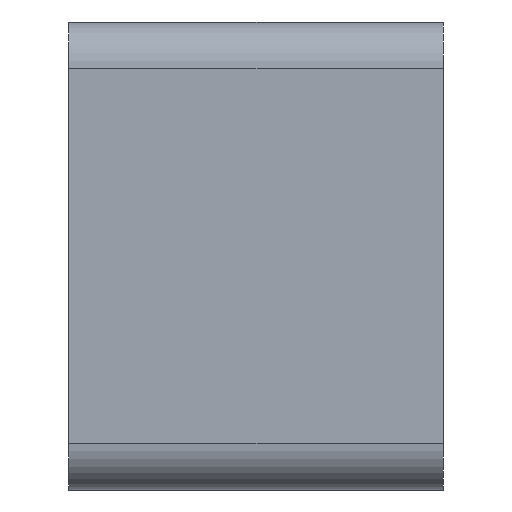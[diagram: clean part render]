
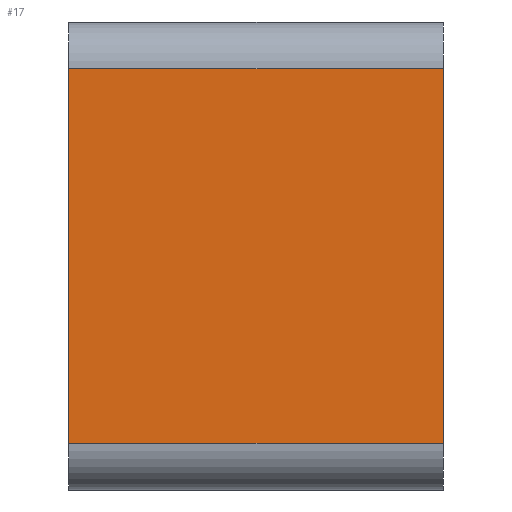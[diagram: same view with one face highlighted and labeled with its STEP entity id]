
A CAD part, left-side view. The second image highlights one B-rep face of the part: STEP entity #17.
In plain terms, the highlighted planar face has unit normal (-1, 0, 0).
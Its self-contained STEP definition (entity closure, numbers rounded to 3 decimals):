
#17 = ADVANCED_FACE('',(#18),#32,.F.);
#18 = FACE_BOUND('',#19,.F.);
#19 = EDGE_LOOP('',(#20,#55,#83,#111));
#20 = ORIENTED_EDGE('',*,*,#21,.F.);
#21 = EDGE_CURVE('',#22,#24,#26,.T.);
#22 = VERTEX_POINT('',#23);
#23 = CARTESIAN_POINT('',(-25.,-61.5,16.));
#24 = VERTEX_POINT('',#25);
#25 = CARTESIAN_POINT('',(-25.,-61.5,24.));
#26 = SURFACE_CURVE('',#27,(#31,#43),.PCURVE_S1.);
#27 = LINE('',#28,#29);
#28 = CARTESIAN_POINT('',(-25.,-61.5,15.));
#29 = VECTOR('',#30,1.);
#30 = DIRECTION('',(0.,0.,1.));
#31 = PCURVE('',#32,#37);
#32 = PLANE('',#33);
#33 = AXIS2_PLACEMENT_3D('',#34,#35,#36);
#34 = CARTESIAN_POINT('',(-25.,-61.5,15.));
#35 = DIRECTION('',(1.,0.,-0.));
#36 = DIRECTION('',(0.,0.,1.));
#37 = DEFINITIONAL_REPRESENTATION('',(#38),#42);
#38 = LINE('',#39,#40);
#39 = CARTESIAN_POINT('',(0.,0.));
#40 = VECTOR('',#41,1.);
#41 = DIRECTION('',(1.,0.));
#42 = ( GEOMETRIC_REPRESENTATION_CONTEXT(2) 
PARAMETRIC_REPRESENTATION_CONTEXT() REPRESENTATION_CONTEXT('2D SPACE',''
  ) );
#43 = PCURVE('',#44,#49);
#44 = PLANE('',#45);
#45 = AXIS2_PLACEMENT_3D('',#46,#47,#48);
#46 = CARTESIAN_POINT('',(-25.,-61.5,15.));
#47 = DIRECTION('',(-0.,1.,0.));
#48 = DIRECTION('',(0.,0.,1.));
#49 = DEFINITIONAL_REPRESENTATION('',(#50),#54);
#50 = LINE('',#51,#52);
#51 = CARTESIAN_POINT('',(0.,0.));
#52 = VECTOR('',#53,1.);
#53 = DIRECTION('',(1.,0.));
#54 = ( GEOMETRIC_REPRESENTATION_CONTEXT(2) 
PARAMETRIC_REPRESENTATION_CONTEXT() REPRESENTATION_CONTEXT('2D SPACE',''
  ) );
#55 = ORIENTED_EDGE('',*,*,#56,.T.);
#56 = EDGE_CURVE('',#22,#57,#59,.T.);
#57 = VERTEX_POINT('',#58);
#58 = CARTESIAN_POINT('',(-25.,-53.5,16.));
#59 = SURFACE_CURVE('',#60,(#64,#71),.PCURVE_S1.);
#60 = LINE('',#61,#62);
#61 = CARTESIAN_POINT('',(-25.,-61.5,16.));
#62 = VECTOR('',#63,1.);
#63 = DIRECTION('',(-0.,1.,0.));
#64 = PCURVE('',#32,#65);
#65 = DEFINITIONAL_REPRESENTATION('',(#66),#70);
#66 = LINE('',#67,#68);
#67 = CARTESIAN_POINT('',(1.,0.));
#68 = VECTOR('',#69,1.);
#69 = DIRECTION('',(0.,-1.));
#70 = ( GEOMETRIC_REPRESENTATION_CONTEXT(2) 
PARAMETRIC_REPRESENTATION_CONTEXT() REPRESENTATION_CONTEXT('2D SPACE',''
  ) );
#71 = PCURVE('',#72,#77);
#72 = CYLINDRICAL_SURFACE('',#73,1.);
#73 = AXIS2_PLACEMENT_3D('',#74,#75,#76);
#74 = CARTESIAN_POINT('',(-24.,-61.5,16.));
#75 = DIRECTION('',(-0.,1.,0.));
#76 = DIRECTION('',(-1.,-0.,0.));
#77 = DEFINITIONAL_REPRESENTATION('',(#78),#82);
#78 = LINE('',#79,#80);
#79 = CARTESIAN_POINT('',(-0.,0.));
#80 = VECTOR('',#81,1.);
#81 = DIRECTION('',(-0.,1.));
#82 = ( GEOMETRIC_REPRESENTATION_CONTEXT(2) 
PARAMETRIC_REPRESENTATION_CONTEXT() REPRESENTATION_CONTEXT('2D SPACE',''
  ) );
#83 = ORIENTED_EDGE('',*,*,#84,.T.);
#84 = EDGE_CURVE('',#57,#85,#87,.T.);
#85 = VERTEX_POINT('',#86);
#86 = CARTESIAN_POINT('',(-25.,-53.5,24.));
#87 = SURFACE_CURVE('',#88,(#92,#99),.PCURVE_S1.);
#88 = LINE('',#89,#90);
#89 = CARTESIAN_POINT('',(-25.,-53.5,15.));
#90 = VECTOR('',#91,1.);
#91 = DIRECTION('',(0.,0.,1.));
#92 = PCURVE('',#32,#93);
#93 = DEFINITIONAL_REPRESENTATION('',(#94),#98);
#94 = LINE('',#95,#96);
#95 = CARTESIAN_POINT('',(0.,-8.));
#96 = VECTOR('',#97,1.);
#97 = DIRECTION('',(1.,0.));
#98 = ( GEOMETRIC_REPRESENTATION_CONTEXT(2) 
PARAMETRIC_REPRESENTATION_CONTEXT() REPRESENTATION_CONTEXT('2D SPACE',''
  ) );
#99 = PCURVE('',#100,#105);
#100 = PLANE('',#101);
#101 = AXIS2_PLACEMENT_3D('',#102,#103,#104);
#102 = CARTESIAN_POINT('',(-25.,-53.5,15.));
#103 = DIRECTION('',(-0.,1.,0.));
#104 = DIRECTION('',(0.,0.,1.));
#105 = DEFINITIONAL_REPRESENTATION('',(#106),#110);
#106 = LINE('',#107,#108);
#107 = CARTESIAN_POINT('',(0.,0.));
#108 = VECTOR('',#109,1.);
#109 = DIRECTION('',(1.,0.));
#110 = ( GEOMETRIC_REPRESENTATION_CONTEXT(2) 
PARAMETRIC_REPRESENTATION_CONTEXT() REPRESENTATION_CONTEXT('2D SPACE',''
  ) );
#111 = ORIENTED_EDGE('',*,*,#112,.F.);
#112 = EDGE_CURVE('',#24,#85,#113,.T.);
#113 = SURFACE_CURVE('',#114,(#118,#125),.PCURVE_S1.);
#114 = LINE('',#115,#116);
#115 = CARTESIAN_POINT('',(-25.,-61.5,24.));
#116 = VECTOR('',#117,1.);
#117 = DIRECTION('',(-0.,1.,0.));
#118 = PCURVE('',#32,#119);
#119 = DEFINITIONAL_REPRESENTATION('',(#120),#124);
#120 = LINE('',#121,#122);
#121 = CARTESIAN_POINT('',(9.,0.));
#122 = VECTOR('',#123,1.);
#123 = DIRECTION('',(0.,-1.));
#124 = ( GEOMETRIC_REPRESENTATION_CONTEXT(2) 
PARAMETRIC_REPRESENTATION_CONTEXT() REPRESENTATION_CONTEXT('2D SPACE',''
  ) );
#125 = PCURVE('',#126,#131);
#126 = CYLINDRICAL_SURFACE('',#127,1.);
#127 = AXIS2_PLACEMENT_3D('',#128,#129,#130);
#128 = CARTESIAN_POINT('',(-24.,-61.5,24.));
#129 = DIRECTION('',(-0.,1.,0.));
#130 = DIRECTION('',(-1.,-0.,0.));
#131 = DEFINITIONAL_REPRESENTATION('',(#132),#136);
#132 = LINE('',#133,#134);
#133 = CARTESIAN_POINT('',(0.,0.));
#134 = VECTOR('',#135,1.);
#135 = DIRECTION('',(0.,1.));
#136 = ( GEOMETRIC_REPRESENTATION_CONTEXT(2) 
PARAMETRIC_REPRESENTATION_CONTEXT() REPRESENTATION_CONTEXT('2D SPACE',''
  ) );
